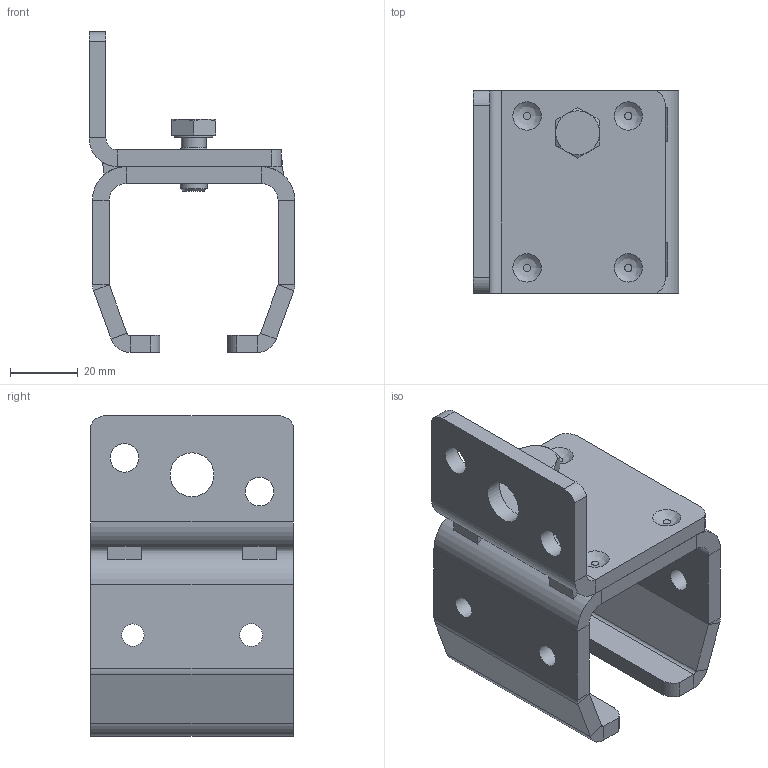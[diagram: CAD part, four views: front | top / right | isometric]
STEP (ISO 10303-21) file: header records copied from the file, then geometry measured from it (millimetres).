
FILE_DESCRIPTION(/* description */ ('Wandbefestigung Nr.2'),/* implementation_level */ '2;1');
FILE_NAME(/* name */ 'Q:\sge-ma\Produktmanagement-STB\STB\Workspace\stp\010335620.stp',/* time_stamp */ '2015-03-10T11:54:20+01:00',/* author */ ('avschreier'),/* organization */ (''),/* preprocessor_version */ 'ST-DEVELOPER v15.6',/* originating_system */ 'Autodesk Inventor 2015',/* authorisation */ '');
FILE_SCHEMA (('CONFIG_CONTROL_DESIGN'));
Length unit declared in the file: millimetre
Products named in the file (5): 010335620_Schweißnähte; 337000230; 335140020; DIN_EN_ISO_4017-M8x16_en; 010335620
Bounding box: 61 x 60 x 95 mm (x, y, z)
Volume: 77209 mm3; surface area: 37066 mm2
Topology: 7 solids, 7 shells, 147 faces, 315 edges, 192 vertices
Faces by surface type: plane 90, cylinder 41, bspline 8, cone 8
Full cylindrical faces by diameter (mm): 6.647 x3, 6.8 x3, 7.323 x1, 8 x1, 8.5 x2, 11.4 x1, 12 x1, 13 x1
Entity records: 4131 total; most frequent: CARTESIAN_POINT 890, DIRECTION 686, ORIENTED_EDGE 594, EDGE_CURVE 297, AXIS2_PLACEMENT_3D 261, EDGE_LOOP 192, VERTEX_POINT 189, LINE 164
